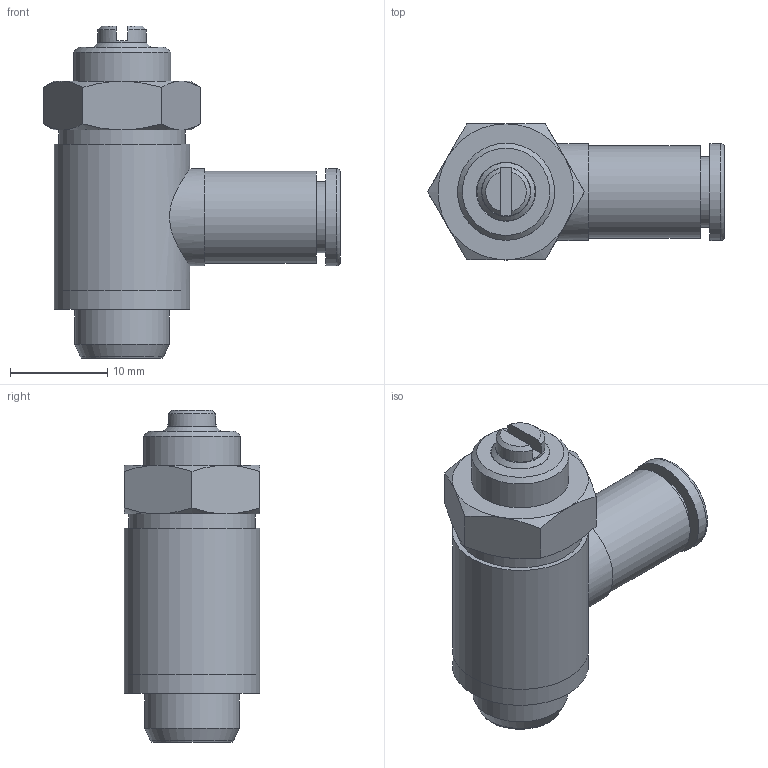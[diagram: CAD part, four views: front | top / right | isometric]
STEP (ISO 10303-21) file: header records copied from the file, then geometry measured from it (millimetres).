
FILE_DESCRIPTION(('Bauteilbeschreibung','HiCAD-Model','HiCAD-STEP-TRANSLATION','Bauteilbeschreibung'),'2;1');
FILE_NAME('B:/ABGLEICH/ZEICHNUNGEN/STEP FÜR INTERNET/STEP/IPSO 029/304804_IPSO_029_5_1-8.STP','2012-04-27T14:42:06+00:00',('Konstrukteur'),('Konstrukteur Firma GmbH'),' HiCAD neXt 2008, Step 3.1.1401.2J ','HiCAD neXt 2008','confidential');
FILE_SCHEMA(('AUTOMOTIVE_DESIGN { 1 2 10303 214 0 1 1 1 }'));
Length unit declared in the file: millimetre
Products named in the file (17): A04804_IPSO_029_5_1_8; BAUGRUPPE 304001_1; A04001_1; A0400101; G 1_8; DIN 13_M7X0_75; DIN 13_M6X0_75; A04001_2; A0400102; DIN0130M6X0075; A04001_3; A0400103; DIN 13_M8X0_75; A00032; A00042_DTG__1_8_UNV ; R201204; DR5_1
Assembly tree (16 placements, depth 4):
  A04804_IPSO_029_5_1_8
    BAUGRUPPE 304001_1
      A04001_1
      A0400101
        G 1_8
        DIN 13_M7X0_75
        DIN 13_M6X0_75
      A04001_2
      A0400102
        DIN0130M6X0075
      A04001_3
      A0400103
        DIN 13_M8X0_75
    A00032
    A00042_DTG__1_8_UNV 
    R201204
    DR5_1
Bounding box: 30.58 x 14 x 34.2 mm (x, y, z)
Volume: 4255.8 mm3; surface area: 6987 mm2
Topology: 12 solids, 12 shells, 167 faces, 350 edges, 217 vertices
Faces by surface type: cylinder 61, plane 55, cone 46, torus 5
Full cylindrical faces by diameter (mm): 2.2 x4, 3 x1, 3.5 x1, 4 x1, 5 x2, 5.08 x3, 5.1 x1, 5.2 x1, 5.5 x1, 5.6 x1, 5.8 x1, 6 x4, 6.08 x1, 6.4 x1, 6.5 x1, 6.9 x1, 7 x3, 7.08 x2, 7.3 x1, 7.5 x2, 7.6 x1, 8 x1, 8.3 x1, 8.566 x2, 8.8 x1, 9.5 x1, 9.65 x3, 9.728 x1, 9.9 x2, 10 x4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
Entity records: 11697 total; most frequent: CARTESIAN_POINT 7117, DIRECTION 742, ORIENTED_EDGE 446, AXIS2_PLACEMENT_3D 358, EDGE_LOOP 306, COLOUR_RGB 225, PRESENTATION_STYLE_ASSIGNMENT 225, EDGE_CURVE 223
